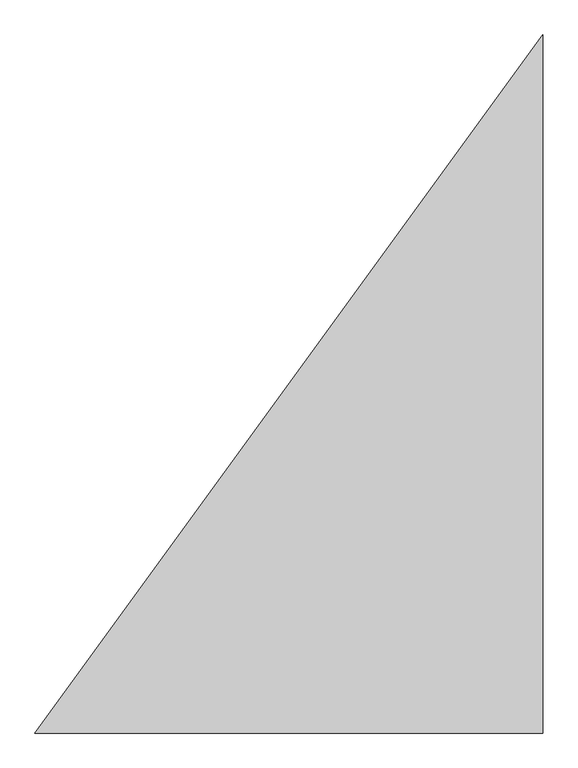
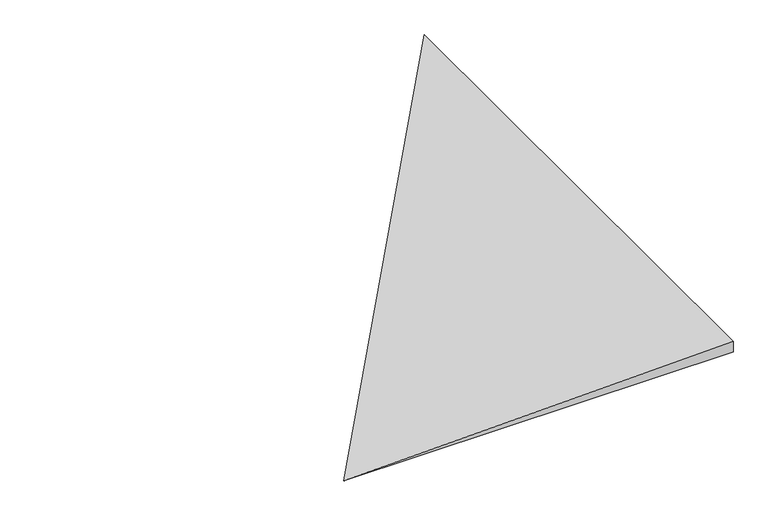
"""IFC4 building model written with IfcOpenShell, lengths in millimetres: proxy geometry, GM-Rf-S044 : GM-Rf-S04-4."""

from ifc_helpers import new_model, si_unit, origin, place, context, project, spatial, faceted_brep, source, transform, mapped, element, save


def generic_models_19658814(model_context):
    return source(origin(), model_context, "Body", "Brep", [
        faceted_brep([(161180.0000001, 124699.9999987, 28800.6818182), (161180.0000001, 124699.9999987, 28859.578125), (159085.9090911, 124699.9999987, 28800.6818182), (161180.0000001, 127579.3749987, 28859.578125)], [[[0, 1, 2]], [[1, 0, 3]], [[2, 1, 3]], [[0, 2, 3]]]),
    ])


if __name__ == "__main__":
    model = new_model("IFC4")
    model_context = context("Model", 3, world=origin())
    ifc_project = project(units=[si_unit("LENGTHUNIT", "METRE", prefix="MILLI")], contexts=[model_context])
    site = spatial("IfcSite", under=ifc_project)
    building = spatial("IfcBuilding", under=site)
    placement = place(None, origin())
    generic_models_shape = generic_models_19658814(model_context)
    element("IfcBuildingElementProxy", 1, Name="GM-Rf-S044 : GM-Rf-S04-4", ObjectType="GM-Rf-S044 : GM-Rf-S04-4", at=placement, inside=building, context=model_context, shape_type="MappedRepresentation", body=[
        mapped(generic_models_shape, transform((0.0, 0.0, 0.0), x_axis=(1.0, 0.0, 0.0), y_axis=(0.0, 1.0, 0.0), z_axis=(0.0, 0.0, 1.0))),
    ])
    save(model, "model.ifc")
